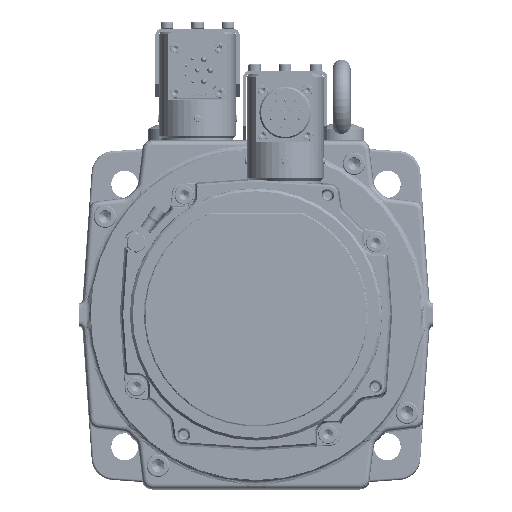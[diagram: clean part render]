
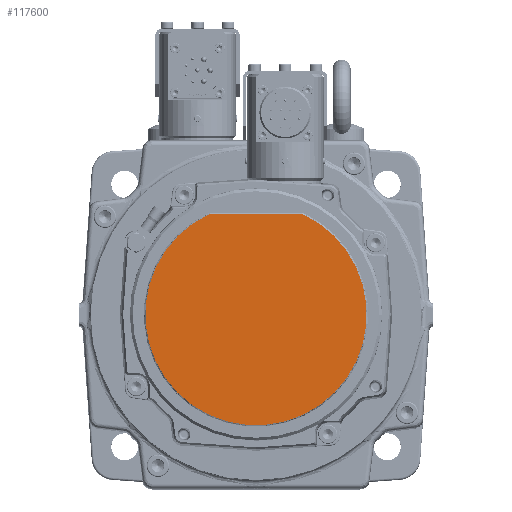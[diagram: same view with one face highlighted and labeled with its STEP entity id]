
A CAD part, top view. The second image highlights one B-rep face of the part: STEP entity #117600.
In plain terms, the highlighted planar face has unit normal (0, 0, 1).
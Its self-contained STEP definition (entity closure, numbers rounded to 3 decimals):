
#110172=CARTESIAN_POINT('',(0.,0.,63.9));
#110173=DIRECTION('',(0.,0.,-1.));
#110174=DIRECTION('',(0.418,0.908,0.));
#110175=AXIS2_PLACEMENT_3D('',#110172,#110173,#110174);
#110184=DIRECTION('',(-1.,0.,0.));
#110185=VECTOR('',#110184,41.125);
#110186=CARTESIAN_POINT('',(20.562,44.7,63.9));
#110187=LINE('',#110186,#110185);
#110848=CARTESIAN_POINT('',(20.562,44.7,63.9));
#110849=CARTESIAN_POINT('',(-20.562,44.7,63.9));
#110850=VERTEX_POINT('',#110848);
#110851=VERTEX_POINT('',#110849);
#117591=CARTESIAN_POINT('',(0.,0.,63.9));
#117592=DIRECTION('',(0.,0.,1.));
#117593=DIRECTION('',(1.,0.,0.));
#117594=AXIS2_PLACEMENT_3D('',#117591,#117592,#117593);
#117595=PLANE('',#117594);
#117596=ORIENTED_EDGE('',*,*,#117570,.T.);
#117597=ORIENTED_EDGE('',*,*,#117582,.F.);
#117598=EDGE_LOOP('',(#117596,#117597));
#117599=FACE_OUTER_BOUND('',#117598,.F.);
#117600=ADVANCED_FACE('',(#117599),#117595,.T.);
#110176=CIRCLE('',#110175,49.203);
#117570=EDGE_CURVE('',#110850,#110851,#110176,.T.);
#117582=EDGE_CURVE('',#110850,#110851,#110187,.T.);
